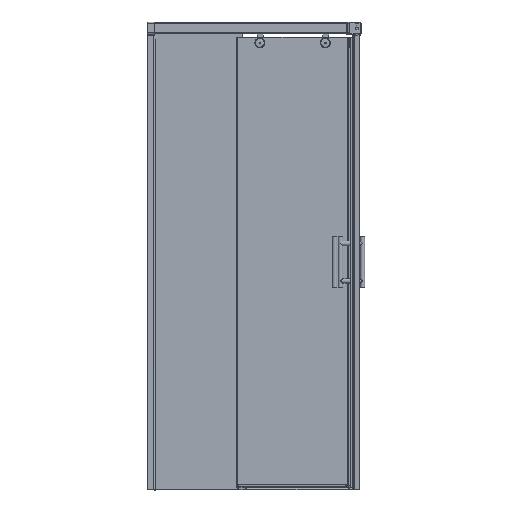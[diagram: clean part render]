
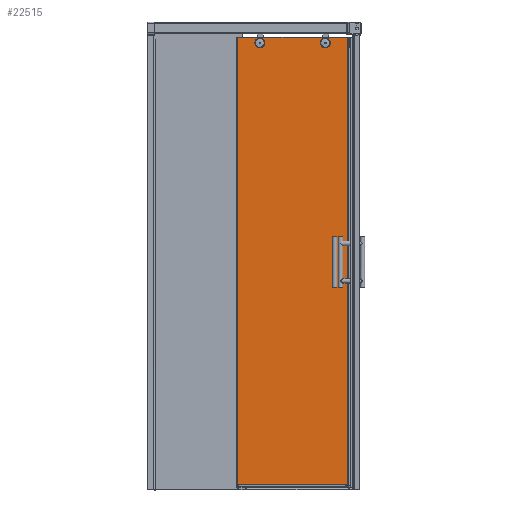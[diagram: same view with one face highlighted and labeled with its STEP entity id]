
A CAD part, front view. The second image highlights one B-rep face of the part: STEP entity #22515.
In plain terms, the highlighted planar face has unit normal (0, -1, 0).
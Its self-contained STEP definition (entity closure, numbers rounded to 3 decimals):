
#211=FACE_BOUND($,#3765,.T.);
#212=FACE_BOUND($,#3766,.T.);
#213=FACE_BOUND($,#3767,.T.);
#214=FACE_BOUND($,#3768,.T.);
#215=FACE_BOUND($,#3769,.T.);
#297=CIRCLE($,#23027,18.5);
#317=CIRCLE($,#23064,18.5);
#828=CIRCLE($,#24374,10.);
#829=CIRCLE($,#24375,10.);
#1360=PLANE($,#24373);
#3765=EDGE_LOOP($,(#18174));
#3766=EDGE_LOOP($,(#18175));
#3767=EDGE_LOOP($,(#18176));
#3768=EDGE_LOOP($,(#18177));
#3769=EDGE_LOOP($,(#18178,#18179,#18180,#18181));
#5704=LINE($,#36482,#7894);
#5742=LINE($,#36667,#7932);
#5754=LINE($,#36698,#7944);
#5755=LINE($,#36699,#7945);
#7894=VECTOR($,#28907,470.4);
#7932=VECTOR($,#29091,1914.4);
#7944=VECTOR($,#29135,1914.4);
#7945=VECTOR($,#29136,470.4);
#8904=VERTEX_POINT($,#31297);
#8933=VERTEX_POINT($,#31449);
#10237=VERTEX_POINT($,#36479);
#10238=VERTEX_POINT($,#36481);
#10298=VERTEX_POINT($,#36665);
#10299=VERTEX_POINT($,#36693);
#10300=VERTEX_POINT($,#36695);
#10301=VERTEX_POINT($,#36697);
#10915=EDGE_CURVE($,#8904,#8904,#297,.T.);
#10953=EDGE_CURVE($,#8933,#8933,#317,.T.);
#12908=EDGE_CURVE($,#10237,#10238,#5704,.T.);
#12992=EDGE_CURVE($,#10237,#10298,#5742,.T.);
#13004=EDGE_CURVE($,#10299,#10299,#828,.T.);
#13005=EDGE_CURVE($,#10300,#10300,#829,.T.);
#13006=EDGE_CURVE($,#10238,#10301,#5754,.T.);
#13007=EDGE_CURVE($,#10301,#10298,#5755,.T.);
#18174=ORIENTED_EDGE($,*,*,#10915,.T.);
#18175=ORIENTED_EDGE($,*,*,#10953,.T.);
#18176=ORIENTED_EDGE($,*,*,#13004,.T.);
#18177=ORIENTED_EDGE($,*,*,#13005,.T.);
#18178=ORIENTED_EDGE($,*,*,#13006,.F.);
#18179=ORIENTED_EDGE($,*,*,#12908,.F.);
#18180=ORIENTED_EDGE($,*,*,#12992,.T.);
#18181=ORIENTED_EDGE($,*,*,#13007,.F.);
#22515=ADVANCED_FACE($,(#211,#212,#213,#214,#215),#1360,.T.);
#23027=AXIS2_PLACEMENT_3D($,#31298,#25079,#25080);
#23064=AXIS2_PLACEMENT_3D($,#31450,#25167,#25168);
#24373=AXIS2_PLACEMENT_3D($,#36692,#29129,#29130);
#24374=AXIS2_PLACEMENT_3D($,#36694,#29131,#29132);
#24375=AXIS2_PLACEMENT_3D($,#36696,#29133,#29134);
#25079=DIRECTION('center_axis',(0.,1.,0.));
#25080=DIRECTION('ref_axis',(-0.899,0.,
-0.437));
#25167=DIRECTION('center_axis',(0.,1.,0.));
#25168=DIRECTION('ref_axis',(-0.899,0.,
-0.437));
#28907=DIRECTION($,(1.,0.,0.));
#29091=DIRECTION($,(0.,0.,-1.));
#29129=DIRECTION('center_axis',(0.,-1.,0.));
#29130=DIRECTION('ref_axis',(1.,0.,0.));
#29131=DIRECTION('center_axis',(0.,1.,0.));
#29132=DIRECTION('ref_axis',(0.,0.,
1.));
#29133=DIRECTION('center_axis',(0.,1.,0.));
#29134=DIRECTION('ref_axis',(0.,0.,
1.));
#29135=DIRECTION($,(0.,0.,-1.));
#29136=DIRECTION($,(-1.,0.,0.));
#31297=CARTESIAN_POINT('',(1412.422,882.172,1930.192));
#31298=CARTESIAN_POINT('Origin',(1395.786,882.172,1922.1));
#31449=CARTESIAN_POINT('',(1692.422,882.172,1930.192));
#31450=CARTESIAN_POINT('Origin',(1675.786,882.172,1922.1));
#36479=CARTESIAN_POINT('',(1300.786,882.172,1947.1));
#36481=CARTESIAN_POINT('',(1771.186,882.172,1947.1));
#36482=CARTESIAN_POINT($,(1295.786,882.172,1947.1));
#36665=CARTESIAN_POINT('',(1300.786,882.172,32.7));
#36667=CARTESIAN_POINT($,(1300.786,882.172,22.1));
#36692=CARTESIAN_POINT('Origin',(1295.786,882.172,22.1));
#36693=CARTESIAN_POINT('',(1715.786,882.172,894.6));
#36694=CARTESIAN_POINT('Origin',(1715.786,882.172,904.6));
#36695=CARTESIAN_POINT('',(1715.786,882.172,1054.6));
#36696=CARTESIAN_POINT('Origin',(1715.786,882.172,1064.6));
#36697=CARTESIAN_POINT('',(1771.186,882.172,32.7));
#36698=CARTESIAN_POINT($,(1771.186,882.172,1947.1));
#36699=CARTESIAN_POINT($,(1775.786,882.172,32.7));
